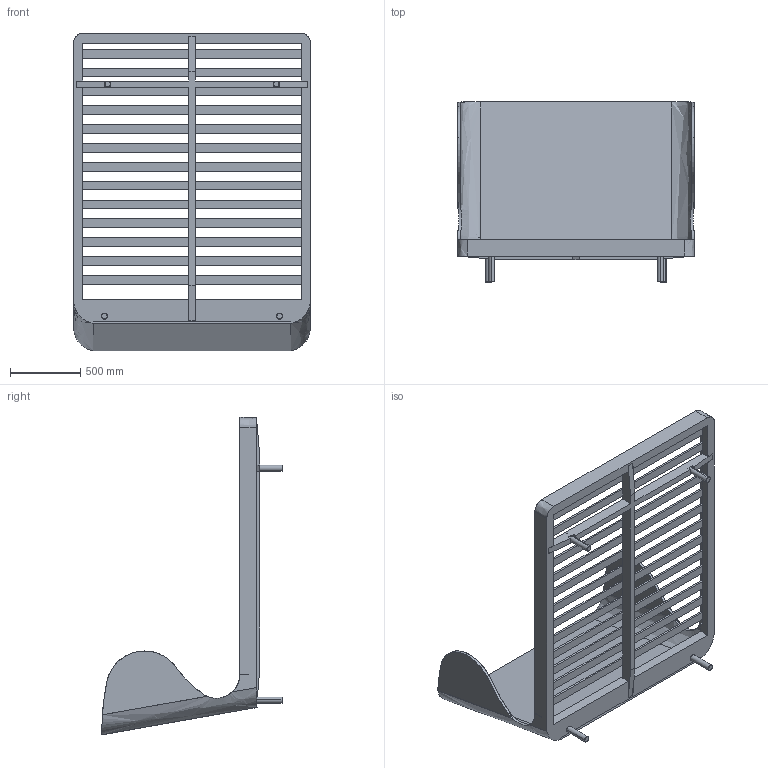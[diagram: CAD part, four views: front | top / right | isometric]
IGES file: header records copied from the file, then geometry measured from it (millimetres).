
Start section: SolidWorks IGES file using analytic representation for surfaces
Global section: file name: C:\Users\David.BDLE\Desktop\265EQ Suite Bed_version i_2018-05-16\265EQ Suite Bed_3D IGS.IGS; native system: SolidWorks 2016; preprocessor: SolidWorks 2016; author: David; date: 210616.102900; units: millimetre
Bounding box: 1685 x 1284.15 x 2258.71 mm (x, y, z)
Surface area: 11421707.6 mm2 (no closed solid volume)
Topology: 0 solids, 0 shells, 259 faces, 3115 edges, 3115 vertices
Faces by surface type: bspline 201, revolution 58
